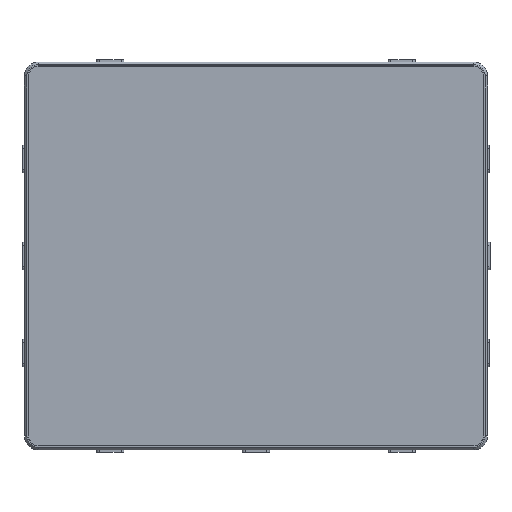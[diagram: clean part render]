
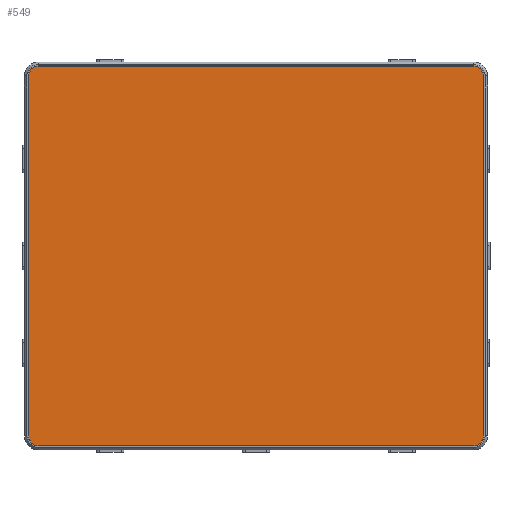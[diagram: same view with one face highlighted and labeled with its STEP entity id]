
A CAD part, top view. The second image highlights one B-rep face of the part: STEP entity #549.
In plain terms, the highlighted planar face has unit normal (0, 0, 1).
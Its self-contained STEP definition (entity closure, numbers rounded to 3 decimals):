
#549=ADVANCED_FACE('',(#32255),#32257,.F.);
#32255=FACE_BOUND('',#32256,.T.);
#32256=EDGE_LOOP('',(#59589,#59590,#59591,#59592,#59593,#59594,#59595,#59596));
#32257=PLANE('',#32258);
#32258=AXIS2_PLACEMENT_3D('',#32259,#32260,#32261);
#32259=CARTESIAN_POINT('',(-42.,29.,8.));
#32260=DIRECTION('',(0.,0.,-1.));
#32261=DIRECTION('',(1.,0.,0.));
#59589=ORIENTED_EDGE('',*,*,#81194,.F.);
#59590=ORIENTED_EDGE('',*,*,#81192,.F.);
#59591=ORIENTED_EDGE('',*,*,#81190,.F.);
#59592=ORIENTED_EDGE('',*,*,#81188,.F.);
#59593=ORIENTED_EDGE('',*,*,#81186,.F.);
#59594=ORIENTED_EDGE('',*,*,#81184,.F.);
#59595=ORIENTED_EDGE('',*,*,#81182,.F.);
#59596=ORIENTED_EDGE('',*,*,#81179,.F.);
#81179=EDGE_CURVE('',#90790,#90791,#90792,.T.);
#81182=EDGE_CURVE('',#90791,#90795,#90796,.T.);
#81184=EDGE_CURVE('',#90795,#90798,#90799,.T.);
#81186=EDGE_CURVE('',#90798,#90801,#90802,.T.);
#81188=EDGE_CURVE('',#90801,#90804,#90805,.T.);
#81190=EDGE_CURVE('',#90804,#90807,#90808,.T.);
#81192=EDGE_CURVE('',#90807,#90810,#90811,.T.);
#81194=EDGE_CURVE('',#90810,#90790,#90813,.T.);
#90790=VERTEX_POINT('',#106889);
#90791=VERTEX_POINT('',#106890);
#90792=CIRCLE('',#106891,8.);
#90795=VERTEX_POINT('',#106901);
#90796=LINE('',#106902,#106903);
#90798=VERTEX_POINT('',#106908);
#90799=CIRCLE('',#106909,8.);
#90801=VERTEX_POINT('',#106916);
#90802=LINE('',#106917,#106918);
#90804=VERTEX_POINT('',#106923);
#90805=CIRCLE('',#106924,8.);
#90807=VERTEX_POINT('',#106931);
#90808=LINE('',#106932,#106933);
#90810=VERTEX_POINT('',#106938);
#90811=CIRCLE('',#106939,8.);
#90813=LINE('',#106946,#106947);
#106889=CARTESIAN_POINT('',(137.3,185.3,8.));
#106890=CARTESIAN_POINT('',(145.3,177.3,8.));
#106891=AXIS2_PLACEMENT_3D('',#106892,#106893,#106894);
#106892=CARTESIAN_POINT('',(137.3,177.3,8.));
#106893=DIRECTION('',(0.,0.,-1.));
#106894=DIRECTION('',(0.,1.,0.));
#106901=CARTESIAN_POINT('',(145.3,-119.3,8.));
#106902=CARTESIAN_POINT('',(145.3,177.3,8.));
#106903=VECTOR('',#106904,1.);
#106904=DIRECTION('',(0.,-1.,0.));
#106908=CARTESIAN_POINT('',(137.3,-127.3,8.));
#106909=AXIS2_PLACEMENT_3D('',#106910,#106911,#106912);
#106910=CARTESIAN_POINT('',(137.3,-119.3,8.));
#106911=DIRECTION('',(0.,0.,-1.));
#106912=DIRECTION('',(1.,0.,0.));
#106916=CARTESIAN_POINT('',(-221.3,-127.3,8.));
#106917=CARTESIAN_POINT('',(137.3,-127.3,8.));
#106918=VECTOR('',#106919,1.);
#106919=DIRECTION('',(-1.,0.,0.));
#106923=CARTESIAN_POINT('',(-229.3,-119.3,8.));
#106924=AXIS2_PLACEMENT_3D('',#106925,#106926,#106927);
#106925=CARTESIAN_POINT('',(-221.3,-119.3,8.));
#106926=DIRECTION('',(0.,0.,-1.));
#106927=DIRECTION('',(0.,-1.,0.));
#106931=CARTESIAN_POINT('',(-229.3,177.3,8.));
#106932=CARTESIAN_POINT('',(-229.3,-119.3,8.));
#106933=VECTOR('',#106934,1.);
#106934=DIRECTION('',(0.,1.,0.));
#106938=CARTESIAN_POINT('',(-221.3,185.3,8.));
#106939=AXIS2_PLACEMENT_3D('',#106940,#106941,#106942);
#106940=CARTESIAN_POINT('',(-221.3,177.3,8.));
#106941=DIRECTION('',(0.,0.,-1.));
#106942=DIRECTION('',(-1.,0.,0.));
#106946=CARTESIAN_POINT('',(-221.3,185.3,8.));
#106947=VECTOR('',#106948,1.);
#106948=DIRECTION('',(1.,0.,0.));
